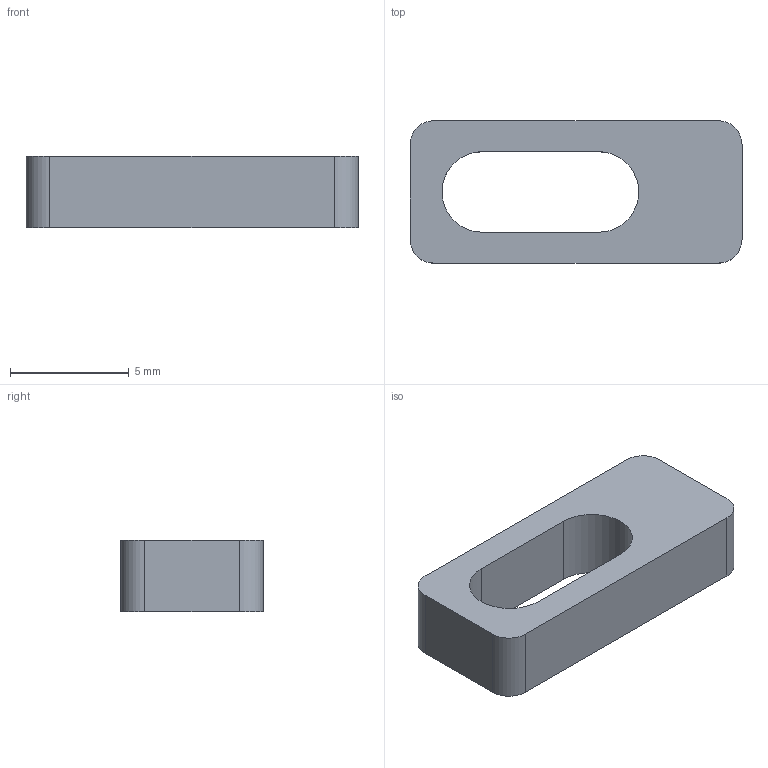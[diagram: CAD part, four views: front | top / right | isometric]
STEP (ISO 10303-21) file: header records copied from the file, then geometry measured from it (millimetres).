
FILE_DESCRIPTION(('Open CASCADE Model'),'2;1');
FILE_NAME('Open CASCADE Shape Model','2026-11-11T17:54:49',('Author'),( 'Open CASCADE'),'Open CASCADE STEP processor 7.9','Open CASCADE 7.9' ,'Unknown');
FILE_SCHEMA(('AUTOMOTIVE_DESIGN { 1 0 10303 214 1 1 1 1 }'));
Length unit declared in the file: millimetre
Products named in the file (1): Open CASCADE STEP translator 7.9 2
Bounding box: 14 x 6 x 3 mm (x, y, z)
Volume: 172.2 mm3; surface area: 291.1 mm2
Topology: 1 solids, 1 shells, 14 faces, 36 edges, 24 vertices
Faces by surface type: plane 8, cylinder 6
Entity records: 930 total; most frequent: CARTESIAN_POINT 203, DIRECTION 134, LINE 76, VECTOR 76, ORIENTED_EDGE 72, PCURVE 72, DEFINITIONAL_REPRESENTATION 72, EDGE_CURVE 36
